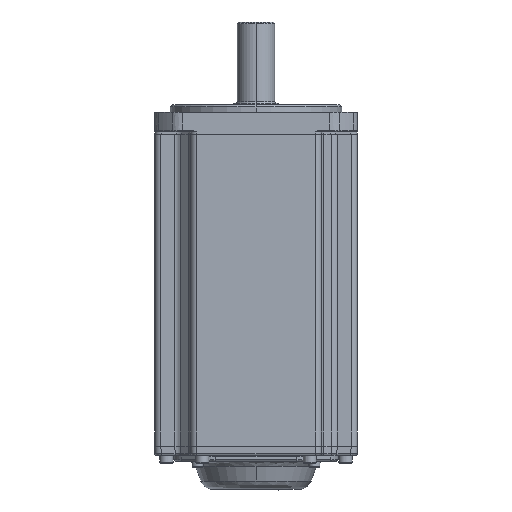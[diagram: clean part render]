
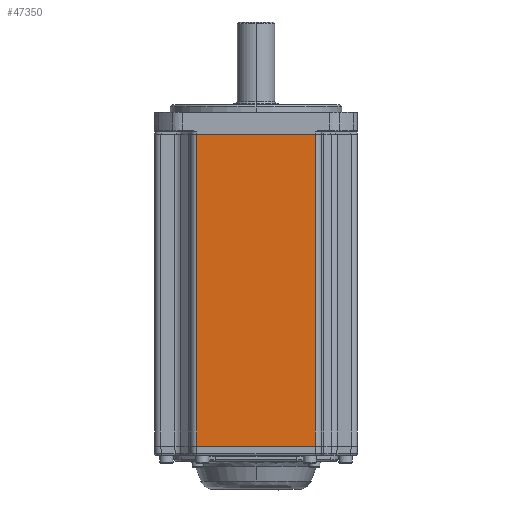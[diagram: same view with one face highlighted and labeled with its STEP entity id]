
A CAD part, front view. The second image highlights one B-rep face of the part: STEP entity #47350.
In plain terms, the highlighted planar face has unit normal (0, -1, 0).
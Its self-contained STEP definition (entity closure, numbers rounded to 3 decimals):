
#169 = EDGE_CURVE ( 'NONE', #30481, #61320, #52109, .T. ) ;
#4271 = CARTESIAN_POINT ( 'NONE',  ( -42., -65., 847.8 ) ) ;
#4975 = DIRECTION ( 'NONE',  ( 1., 0., 0. ) ) ;
#5926 = VERTEX_POINT ( 'NONE', #22686 ) ;
#13772 = VECTOR ( 'NONE', #24972, 1000. ) ;
#16700 = EDGE_CURVE ( 'NONE', #61320, #5926, #56850, .T. ) ;
#17246 = CARTESIAN_POINT ( 'NONE',  ( 38., -65., 847.8 ) ) ;
#18387 = PLANE ( 'NONE',  #36820 ) ;
#22150 = DIRECTION ( 'NONE',  ( 0., 0., 1. ) ) ;
#22686 = CARTESIAN_POINT ( 'NONE',  ( 38., -65., -152.2 ) ) ;
#22791 = LINE ( 'NONE', #54109, #13772 ) ;
#24972 = DIRECTION ( 'NONE',  ( 1., 0., 0. ) ) ;
#28980 = ORIENTED_EDGE ( 'NONE', *, *, #169, .T. ) ;
#29097 = EDGE_CURVE ( 'NONE', #5926, #39056, #39746, .T. ) ;
#29727 = ORIENTED_EDGE ( 'NONE', *, *, #16700, .T. ) ;
#29932 = ORIENTED_EDGE ( 'NONE', *, *, #29097, .T. ) ;
#30481 = VERTEX_POINT ( 'NONE', #49454 ) ;
#32938 = DIRECTION ( 'NONE',  ( 0., 1., 0. ) ) ;
#36820 = AXIS2_PLACEMENT_3D ( 'NONE', #4271, #32938, #62107 ) ;
#37355 = CARTESIAN_POINT ( 'NONE',  ( -38., -65., 847.8 ) ) ;
#37875 = ORIENTED_EDGE ( 'NONE', *, *, #44913, .F. ) ;
#39056 = VERTEX_POINT ( 'NONE', #45719 ) ;
#39746 = LINE ( 'NONE', #17246, #55528 ) ;
#41277 = FACE_OUTER_BOUND ( 'NONE', #42418, .T. ) ;
#42418 = EDGE_LOOP ( 'NONE', ( #37875, #28980, #29727, #29932 ) ) ;
#44913 = EDGE_CURVE ( 'NONE', #30481, #39056, #22791, .T. ) ;
#45333 = VECTOR ( 'NONE', #46998, 1000. ) ;
#45719 = CARTESIAN_POINT ( 'NONE',  ( 38., -65., 47.8 ) ) ;
#46298 = VECTOR ( 'NONE', #4975, 1000. ) ;
#46998 = DIRECTION ( 'NONE',  ( 0., 0., -1. ) ) ;
#47350 = ADVANCED_FACE ( 'NONE', ( #41277 ), #18387, .F. ) ;
#49454 = CARTESIAN_POINT ( 'NONE',  ( -38., -65., 47.8 ) ) ;
#52109 = LINE ( 'NONE', #37355, #45333 ) ;
#52275 = CARTESIAN_POINT ( 'NONE',  ( -38., -65., -152.2 ) ) ;
#54109 = CARTESIAN_POINT ( 'NONE',  ( -42., -65., 47.8 ) ) ;
#55528 = VECTOR ( 'NONE', #22150, 1000. ) ;
#56850 = LINE ( 'NONE', #57766, #46298 ) ;
#57766 = CARTESIAN_POINT ( 'NONE',  ( -42., -65., -152.2 ) ) ;
#61320 = VERTEX_POINT ( 'NONE', #52275 ) ;
#62107 = DIRECTION ( 'NONE',  ( 0., 0., 1. ) ) ;
